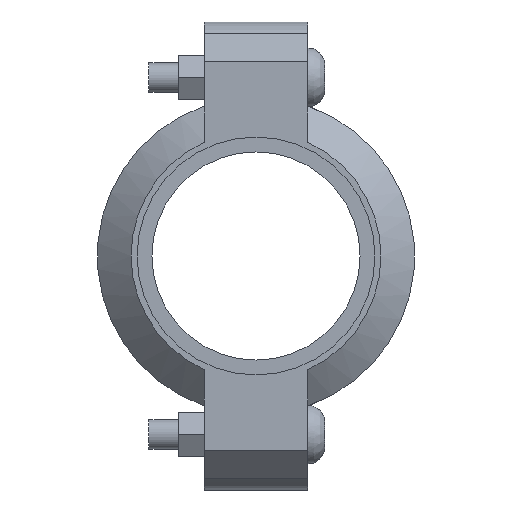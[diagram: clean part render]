
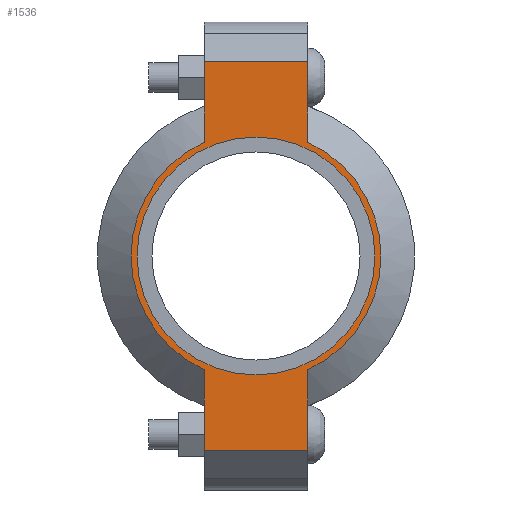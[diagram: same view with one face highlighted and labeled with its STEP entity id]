
A CAD part, left-side view. The second image highlights one B-rep face of the part: STEP entity #1536.
In plain terms, the highlighted planar face has unit normal (-1, 0, 0) as drawn and (0, 0, 1) by its records, which use the part's own axes.
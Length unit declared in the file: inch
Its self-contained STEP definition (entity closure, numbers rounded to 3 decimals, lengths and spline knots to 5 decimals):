
#142=LINE('',#2695,#237);
#155=LINE('',#2739,#250);
#160=LINE('',#2763,#255);
#167=LINE('',#2781,#262);
#174=LINE('',#2806,#269);
#175=LINE('',#2809,#270);
#237=VECTOR('',#2177,0.3937);
#250=VECTOR('',#2206,0.3937);
#255=VECTOR('',#2217,0.3937);
#262=VECTOR('',#2234,0.3937);
#269=VECTOR('',#2255,0.3937);
#270=VECTOR('',#2260,0.3937);
#322=FACE_BOUND('',#500,.T.);
#395=FACE_OUTER_BOUND('',#499,.T.);
#499=EDGE_LOOP('',(#1291,#1292,#1293,#1294,#1295,#1296,#1297,#1298));
#500=EDGE_LOOP('',(#1299));
#569=CIRCLE('',#1753,1.5);
#597=CIRCLE('',#1816,1.575);
#598=CIRCLE('',#1817,1.575);
#661=VERTEX_POINT('',#2483);
#704=VERTEX_POINT('',#2690);
#705=VERTEX_POINT('',#2694);
#721=VERTEX_POINT('',#2736);
#722=VERTEX_POINT('',#2738);
#728=VERTEX_POINT('',#2758);
#729=VERTEX_POINT('',#2762);
#734=VERTEX_POINT('',#2778);
#735=VERTEX_POINT('',#2780);
#819=EDGE_CURVE('',#661,#661,#569,.T.);
#881=EDGE_CURVE('',#705,#704,#142,.T.);
#901=EDGE_CURVE('',#722,#721,#155,.T.);
#910=EDGE_CURVE('',#729,#728,#160,.T.);
#919=EDGE_CURVE('',#735,#734,#167,.T.);
#931=EDGE_CURVE('',#729,#721,#174,.T.);
#932=EDGE_CURVE('',#728,#735,#597,.T.);
#933=EDGE_CURVE('',#705,#734,#175,.T.);
#934=EDGE_CURVE('',#704,#722,#598,.T.);
#1291=ORIENTED_EDGE('',*,*,#931,.F.);
#1292=ORIENTED_EDGE('',*,*,#910,.T.);
#1293=ORIENTED_EDGE('',*,*,#932,.T.);
#1294=ORIENTED_EDGE('',*,*,#919,.T.);
#1295=ORIENTED_EDGE('',*,*,#933,.F.);
#1296=ORIENTED_EDGE('',*,*,#881,.T.);
#1297=ORIENTED_EDGE('',*,*,#934,.T.);
#1298=ORIENTED_EDGE('',*,*,#901,.T.);
#1299=ORIENTED_EDGE('',*,*,#819,.T.);
#1377=PLANE('',#1815);
#1536=ADVANCED_FACE('',(#395,#322),#1377,.T.);
#1753=AXIS2_PLACEMENT_3D('',#2485,#2057,#2058);
#1815=AXIS2_PLACEMENT_3D('',#2807,#2256,#2257);
#1816=AXIS2_PLACEMENT_3D('',#2808,#2258,#2259);
#1817=AXIS2_PLACEMENT_3D('',#2810,#2261,#2262);
#2057=DIRECTION('center_axis',(0.,0.,-1.));
#2058=DIRECTION('ref_axis',(-1.,0.,0.));
#2177=DIRECTION('',(-1.,0.,0.));
#2206=DIRECTION('',(-1.,0.,0.));
#2217=DIRECTION('',(1.,0.,0.));
#2234=DIRECTION('',(1.,0.,0.));
#2255=DIRECTION('',(0.,1.,0.));
#2256=DIRECTION('center_axis',(0.,0.,1.));
#2257=DIRECTION('ref_axis',(1.,0.,0.));
#2258=DIRECTION('center_axis',(0.,0.,1.));
#2259=DIRECTION('ref_axis',(-1.,0.,0.));
#2260=DIRECTION('',(0.,-1.,0.));
#2261=DIRECTION('center_axis',(0.,0.,1.));
#2262=DIRECTION('ref_axis',(-1.,0.,0.));
#2483=CARTESIAN_POINT('',(1.5,0.,0.94));
#2485=CARTESIAN_POINT('Origin',(0.,0.,0.94));
#2690=CARTESIAN_POINT('',(1.43462,0.65,0.94));
#2694=CARTESIAN_POINT('',(2.45,0.65,0.94));
#2695=CARTESIAN_POINT('',(-2.95,0.65,0.94));
#2736=CARTESIAN_POINT('',(-2.45,0.65,0.94));
#2738=CARTESIAN_POINT('',(-1.43462,0.65,0.94));
#2739=CARTESIAN_POINT('',(-2.95,0.65,0.94));
#2758=CARTESIAN_POINT('',(-1.43462,-0.65,0.94));
#2762=CARTESIAN_POINT('',(-2.45,-0.65,0.94));
#2763=CARTESIAN_POINT('',(2.95,-0.65,0.94));
#2778=CARTESIAN_POINT('',(2.45,-0.65,0.94));
#2780=CARTESIAN_POINT('',(1.43462,-0.65,0.94));
#2781=CARTESIAN_POINT('',(2.95,-0.65,0.94));
#2806=CARTESIAN_POINT('',(-2.45,0.325,0.94));
#2807=CARTESIAN_POINT('Origin',(0.,0.,
0.94));
#2808=CARTESIAN_POINT('Origin',(0.,0.,0.94));
#2809=CARTESIAN_POINT('',(2.45,-0.325,0.94));
#2810=CARTESIAN_POINT('Origin',(0.,0.,0.94));
